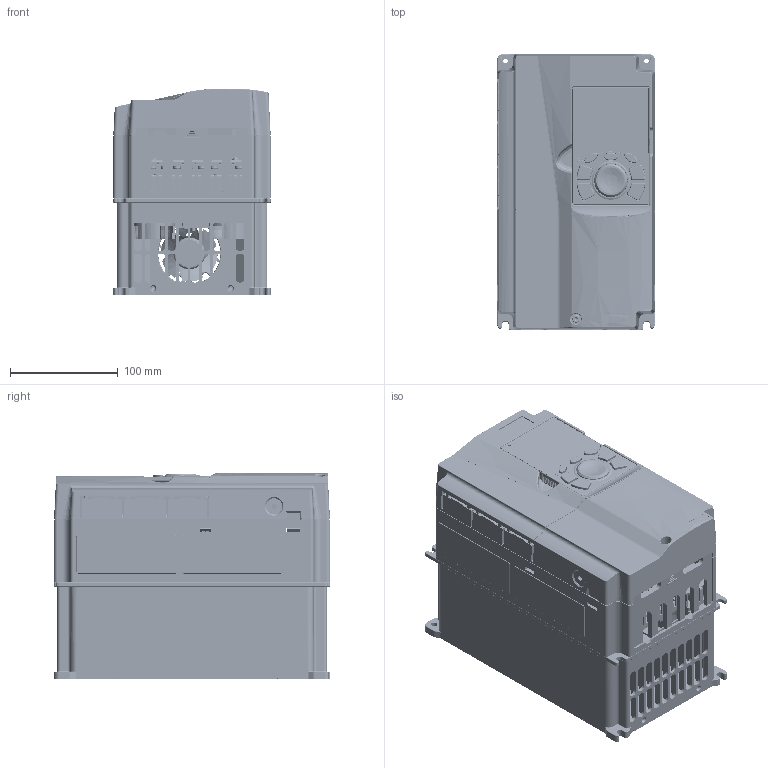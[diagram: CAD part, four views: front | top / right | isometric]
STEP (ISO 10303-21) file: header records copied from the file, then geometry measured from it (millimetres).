
FILE_DESCRIPTION((''),'2;1');
FILE_NAME('GD350-7R5G-4_ASM','2019-10-21T',('Administrator'),(''),'PRO/ENGINEER BY PARAMETRIC TECHNOLOGY CORPORATION, 2010100','PRO/ENGINEER BY PARAMETRIC TECHNOLOGY CORPORATION, 2010100','');
FILE_SCHEMA(('CONFIG_CONTROL_DESIGN'));
Products named in the file (41): 80810120; 80810119; 80810119SY; GD350-7R5G-4_COVER_ASM; 80740175; 80880484; 80740177; 80310231; 80740176; 2-21-19-062-BP602524HL; TB1100-08_BODY_02; TB1100-08_TER_02; TB1300-02_LUODING_02; TB1300-02_WADIAN_02; TB1300-02_LUODINGASM_02_ASM; TB1100-08-02_ASM; GD350-7R5-4-ES_ASM; 80780073; 80740019; GB9074_4_M4X10; GB9074_13_M5X16; GB9074_4_M4X12; 77340010; GD350-7R5G-4-FS_ASM; 80740163; 80740162; 80880456; 80880456SY; 40810091_ASM; 80740164; 80740164SY; 80880455; CR2032_BAR_COVER; CR2032; 36002-00065; GD350-LCD; 80780075; 39009-00082; KEY-LCD01-ZY-350-ES_ASM; KEY-LCD01-ZY-350_ASM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
Assembly tree (80 placements, depth 5):
  GD350-7R5G-4_ASM
    GD350-7R5G-4_COVER_ASM
      80810120
      80810119
      80810119SY
    80740175
    80880484
    80740177
    80310231
    80740176
    GD350-7R5-4-ES_ASM
      2-21-19-062-BP602524HL
      TB1100-08-02_ASM
        TB1100-08_BODY_02
        TB1100-08_TER_02  x9
        TB1300-02_LUODINGASM_02_ASM  x9
          TB1300-02_LUODING_02
          TB1300-02_WADIAN_02
    80780073
    80740019  x4
    GD350-7R5G-4-FS_ASM
      GB9074_4_M4X10  x19
      GB9074_13_M5X16  x2
      GB9074_4_M4X12  x3
      77340010
    KEY-LCD01-ZY-350_ASM
      80740163
      40810091_ASM
        80740162
        80880456
        80880456SY
      80740164
      80740164SY
      80880455
      KEY-LCD01-ZY-350-ES_ASM
        CR2032_BAR_COVER
        CR2032
        36002-00065
        GD350-LCD
        80780075
        39009-00082
Bounding box: 147 x 256 x 191.87 mm (x, y, z)
Volume: 897889.1 mm3; surface area: 881128.5 mm2
Topology: 79 solids, 80 shells, 12160 faces, 33450 edges, 21416 vertices
Faces by surface type: plane 7278, cylinder 2961, bspline 740, torus 567, cone 284, extrusion 207, sphere 107, revolution 16
Entity records: 344566 total; most frequent: CARTESIAN_POINT 95584, ORIENTED_EDGE 53956, DIRECTION 48835, EDGE_CURVE 26992, VECTOR 19565, LINE 19358, VERTEX_POINT 17407, AXIS2_PLACEMENT_3D 14627
